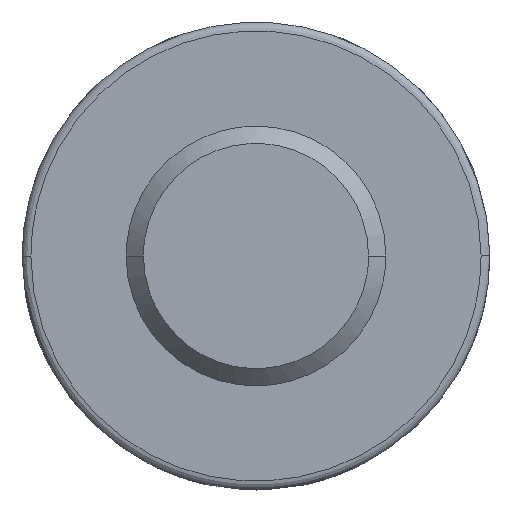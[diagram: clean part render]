
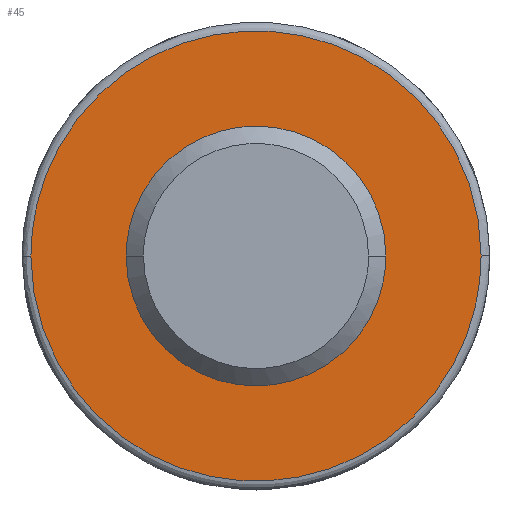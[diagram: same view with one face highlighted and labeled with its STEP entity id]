
A CAD part, front view. The second image highlights one B-rep face of the part: STEP entity #45.
In plain terms, the highlighted planar face has unit normal (0, -1, 0).
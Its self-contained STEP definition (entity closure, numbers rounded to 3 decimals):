
#15=FACE_BOUND('',#114,.T.);
#45=ADVANCED_FACE('',(#79,#15),#477,.T.);
#79=FACE_OUTER_BOUND('',#113,.T.);
#113=EDGE_LOOP('',(#251,#252));
#114=EDGE_LOOP('',(#253,#254));
#251=ORIENTED_EDGE('',*,*,#341,.T.);
#252=ORIENTED_EDGE('',*,*,#338,.T.);
#253=ORIENTED_EDGE('',*,*,#343,.F.);
#254=ORIENTED_EDGE('',*,*,#329,.F.);
#329=EDGE_CURVE('',#458,#465,#347,.T.);
#338=EDGE_CURVE('',#464,#463,#355,.T.);
#341=EDGE_CURVE('',#463,#464,#358,.T.);
#343=EDGE_CURVE('',#465,#458,#360,.T.);
#347=(
BOUNDED_CURVE()
B_SPLINE_CURVE(2,(#1465,#1466,#1467,#1468,#1469),.UNSPECIFIED.,.F.,.F.)
B_SPLINE_CURVE_WITH_KNOTS((3,2,3),(0.,2.356,4.712),
 .UNSPECIFIED.)
CURVE()
GEOMETRIC_REPRESENTATION_ITEM()
RATIONAL_B_SPLINE_CURVE((1.,0.707,1.,0.707,1.))
REPRESENTATION_ITEM('')
);
#355=(
BOUNDED_CURVE()
B_SPLINE_CURVE(2,(#1508,#1509,#1510,#1511,#1512),.UNSPECIFIED.,.F.,.F.)
B_SPLINE_CURVE_WITH_KNOTS((3,2,3),(0.,4.084,
8.167),.UNSPECIFIED.)
CURVE()
GEOMETRIC_REPRESENTATION_ITEM()
RATIONAL_B_SPLINE_CURVE((1.,0.707,1.,0.707,1.))
REPRESENTATION_ITEM('')
);
#358=(
BOUNDED_CURVE()
B_SPLINE_CURVE(2,(#1521,#1522,#1523,#1524,#1525),.UNSPECIFIED.,.F.,.F.)
B_SPLINE_CURVE_WITH_KNOTS((3,2,3),(0.,4.083,
8.167),.UNSPECIFIED.)
CURVE()
GEOMETRIC_REPRESENTATION_ITEM()
RATIONAL_B_SPLINE_CURVE((1.,0.707,1.,0.707,1.))
REPRESENTATION_ITEM('')
);
#360=(
BOUNDED_CURVE()
B_SPLINE_CURVE(2,(#1528,#1529,#1530,#1531,#1532),.UNSPECIFIED.,.F.,.F.)
B_SPLINE_CURVE_WITH_KNOTS((3,2,3),(4.712,7.069,9.425),
 .UNSPECIFIED.)
CURVE()
GEOMETRIC_REPRESENTATION_ITEM()
RATIONAL_B_SPLINE_CURVE((1.,0.707,1.,0.707,1.))
REPRESENTATION_ITEM('')
);
#458=VERTEX_POINT('',#1161);
#463=VERTEX_POINT('',#1166);
#464=VERTEX_POINT('',#1167);
#465=VERTEX_POINT('',#1168);
#477=PLANE('',#531);
#531=AXIS2_PLACEMENT_3D('',#1075,#544,$);
#544=DIRECTION('',(0.,-1.,0.));
#1075=CARTESIAN_POINT('',(364.954,431.398,0.));
#1161=CARTESIAN_POINT('',(338.43,431.398,407.144));
#1166=CARTESIAN_POINT('',(339.53,431.398,407.144));
#1167=CARTESIAN_POINT('',(334.33,431.398,407.144));
#1168=CARTESIAN_POINT('',(335.43,431.398,407.144));
#1465=CARTESIAN_POINT('',(338.43,431.398,407.144));
#1466=CARTESIAN_POINT('',(338.43,431.398,408.644));
#1467=CARTESIAN_POINT('',(336.93,431.398,408.644));
#1468=CARTESIAN_POINT('',(335.43,431.398,408.644));
#1469=CARTESIAN_POINT('',(335.43,431.398,407.144));
#1508=CARTESIAN_POINT('',(334.33,431.398,407.144));
#1509=CARTESIAN_POINT('',(334.33,431.398,404.545));
#1510=CARTESIAN_POINT('',(336.93,431.398,404.545));
#1511=CARTESIAN_POINT('',(339.53,431.398,404.545));
#1512=CARTESIAN_POINT('',(339.53,431.398,407.144));
#1521=CARTESIAN_POINT('',(339.53,431.398,407.144));
#1522=CARTESIAN_POINT('',(339.53,431.398,409.744));
#1523=CARTESIAN_POINT('',(336.93,431.398,409.744));
#1524=CARTESIAN_POINT('',(334.33,431.398,409.744));
#1525=CARTESIAN_POINT('',(334.33,431.398,407.144));
#1528=CARTESIAN_POINT('',(335.43,431.398,407.144));
#1529=CARTESIAN_POINT('',(335.43,431.398,405.644));
#1530=CARTESIAN_POINT('',(336.93,431.398,405.644));
#1531=CARTESIAN_POINT('',(338.43,431.398,405.644));
#1532=CARTESIAN_POINT('',(338.43,431.398,407.144));
